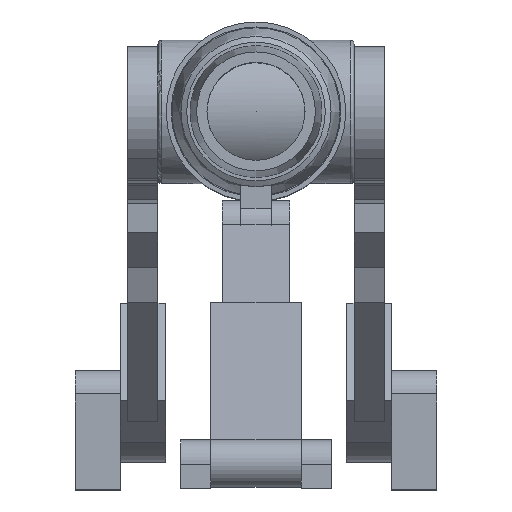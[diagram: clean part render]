
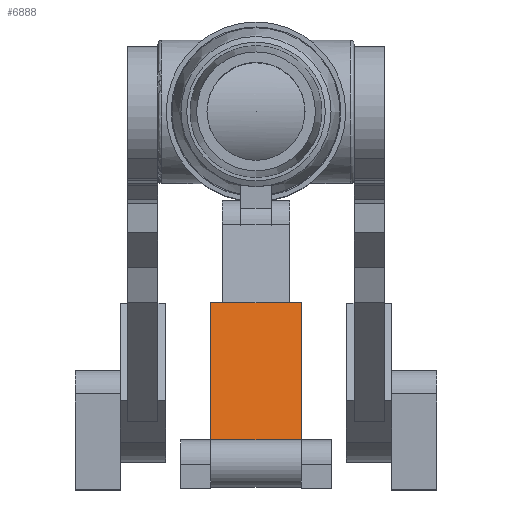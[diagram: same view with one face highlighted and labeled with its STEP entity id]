
A CAD part, top view. The second image highlights one B-rep face of the part: STEP entity #6888.
In plain terms, the highlighted planar face has unit normal (0, 0.888, 0.459).
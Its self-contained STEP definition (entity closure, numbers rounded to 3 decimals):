
#319=PLANE('',#7467);
#731=FACE_OUTER_BOUND('',#1126,.T.);
#1126=EDGE_LOOP('',(#5158,#5159,#5160,#5161));
#1498=LINE('',#10433,#2329);
#1502=LINE('',#10444,#2333);
#1518=LINE('',#10480,#2349);
#1519=LINE('',#10481,#2350);
#2329=VECTOR('',#8219,10.);
#2333=VECTOR('',#8229,10.);
#2349=VECTOR('',#8263,10.);
#2350=VECTOR('',#8264,10.);
#3246=VERTEX_POINT('',#10430);
#3247=VERTEX_POINT('',#10432);
#3251=VERTEX_POINT('',#10442);
#3262=VERTEX_POINT('',#10479);
#3963=EDGE_CURVE('',#3246,#3247,#1498,.T.);
#3969=EDGE_CURVE('',#3246,#3251,#1502,.T.);
#3986=EDGE_CURVE('',#3262,#3251,#1518,.T.);
#3987=EDGE_CURVE('',#3247,#3262,#1519,.T.);
#5158=ORIENTED_EDGE('',*,*,#3969,.T.);
#5159=ORIENTED_EDGE('',*,*,#3986,.F.);
#5160=ORIENTED_EDGE('',*,*,#3987,.F.);
#5161=ORIENTED_EDGE('',*,*,#3963,.F.);
#6888=ADVANCED_FACE('',(#731),#319,.T.);
#7467=AXIS2_PLACEMENT_3D('',#10478,#8261,#8262);
#8219=DIRECTION('',(0.,0.459,-0.888));
#8229=DIRECTION('',(1.,0.,0.));
#8261=DIRECTION('center_axis',(0.,0.888,0.459));
#8262=DIRECTION('ref_axis',(0.,-0.459,0.888));
#8263=DIRECTION('',(0.,-0.459,0.888));
#8264=DIRECTION('',(1.,0.,0.));
#10430=CARTESIAN_POINT('',(-12.,-87.204,177.235));
#10432=CARTESIAN_POINT('',(-12.,-50.67,106.558));
#10433=CARTESIAN_POINT('',(-12.,-50.67,106.558));
#10442=CARTESIAN_POINT('',(12.,-87.204,177.235));
#10444=CARTESIAN_POINT('',(0.,-87.204,177.235));
#10478=CARTESIAN_POINT('Origin',(0.,-50.67,106.558));
#10479=CARTESIAN_POINT('',(12.,-50.67,106.558));
#10480=CARTESIAN_POINT('',(12.,-50.67,106.558));
#10481=CARTESIAN_POINT('',(0.,-50.67,106.558));
